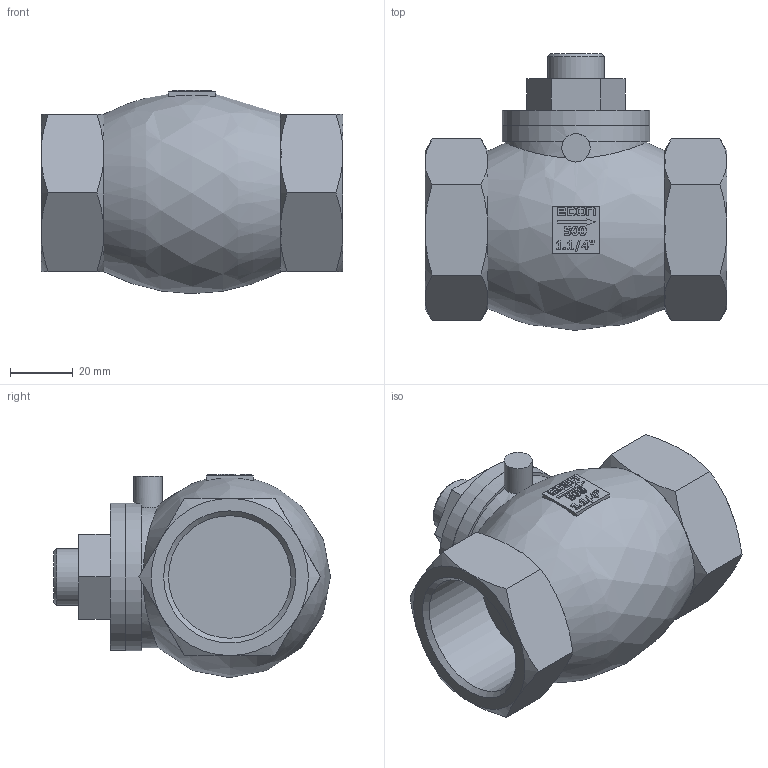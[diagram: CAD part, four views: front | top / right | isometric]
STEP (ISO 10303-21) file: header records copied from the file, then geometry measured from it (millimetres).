
FILE_DESCRIPTION(/* description */ ('Eriks item no: 11811327'),/* implementation_level */ '2;1');
FILE_NAME(/* name */ 'L:\DATA\ENG\Inventor\Econ 3D modellen\terugslagklep\500\500-032-PN16-PTFE.stp',/* time_stamp */ '2023-12-06T15:56:38+01:00',/* author */ ('roger.thijssen'),/* organization */ (''),/* preprocessor_version */ 'ST-DEVELOPER v18',/* originating_system */ 'Autodesk Inventor 2020',/* authorisation */ '');
FILE_SCHEMA (('CONFIG_CONTROL_DESIGN'));
Length unit declared in the file: millimetre
Products named in the file (1): Check valve, 500-032-PN16-PTFE
Bounding box: 96 x 88 x 64.6 mm (x, y, z)
Volume: 207828.5 mm3; surface area: 31798 mm2
Topology: 1 solids, 1 shells, 245 faces, 638 edges, 423 vertices
Faces by surface type: plane 155, bspline 48, cone 22, cylinder 20
Full cylindrical faces by diameter (mm): 9 x1, 18 x1, 38.952 x2, 46.8 x1, 47 x1
Entity records: 7952 total; most frequent: CARTESIAN_POINT 2279, ORIENTED_EDGE 1276, DIRECTION 963, EDGE_CURVE 638, VERTEX_POINT 423, LINE 407, VECTOR 407, AXIS2_PLACEMENT_3D 278
